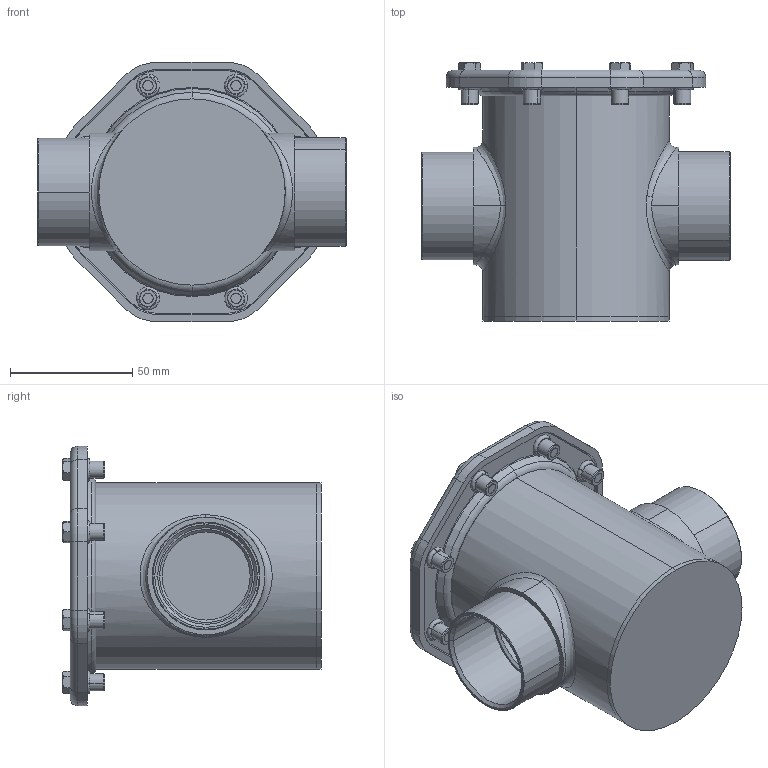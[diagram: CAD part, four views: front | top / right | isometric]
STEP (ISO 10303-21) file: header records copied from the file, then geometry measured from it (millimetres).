
FILE_DESCRIPTION (( 'STEP AP203' ), '1' );
FILE_NAME ('06L1819 G 1 1_4.STEP', '2024-01-17T08:37:17', ( '' ), ( '' ), 'SwSTEP 2.0', 'SolidWorks 2016', '' );
FILE_SCHEMA (( 'CONFIG_CONTROL_DESIGN' ));
Length unit declared in the file: millimetre
Products named in the file (18): 06E0604; 06I1724; 06L1823_06G1643; 06D1913; 06L1820; 06E0605; 06L1819 G 1 1_4; ANELLO OR 6262_05G1647; 06L1821_06G1632; 06L1825; RIVETTO M5 x sp. 2.5; 06L1824; 06L1801_06G1636; 06L1826_06G1643; VITE TE M5 x 8_TE M5 x 14; 06D1912; 06I1823; 06L1822_06G1635
Assembly tree (31 placements, depth 4):
  06L1819 G 1 1_4
    06D1913
      06D1912
        06L1822_06G1635
        06I1724
        06L1826_06G1643
        06E0605
        06L1823_06G1643
      RIVETTO M5 x sp. 2.5  x8
    ANELLO OR 6262_05G1647
    06L1825
      06E0604
      06L1801_06G1636
      06L1820
        06L1821_06G1632
        06I1823
    VITE TE M5 x 8_TE M5 x 14  x8
    06L1824
Bounding box: 126 x 105.5 x 106 mm (x, y, z)
Volume: 144080.3 mm3; surface area: 125226.3 mm2
Topology: 27 solids, 27 shells, 893 faces, 2104 edges, 1296 vertices
Faces by surface type: plane 548, cylinder 177, cone 106, torus 54, bspline 8
Entity records: 17300 total; most frequent: CARTESIAN_POINT 4990, DIRECTION 2192, ORIENTED_EDGE 2024, EDGE_CURVE 1012, AXIS2_PLACEMENT_3D 820, VERTEX_POINT 638, LINE 552, VECTOR 552
